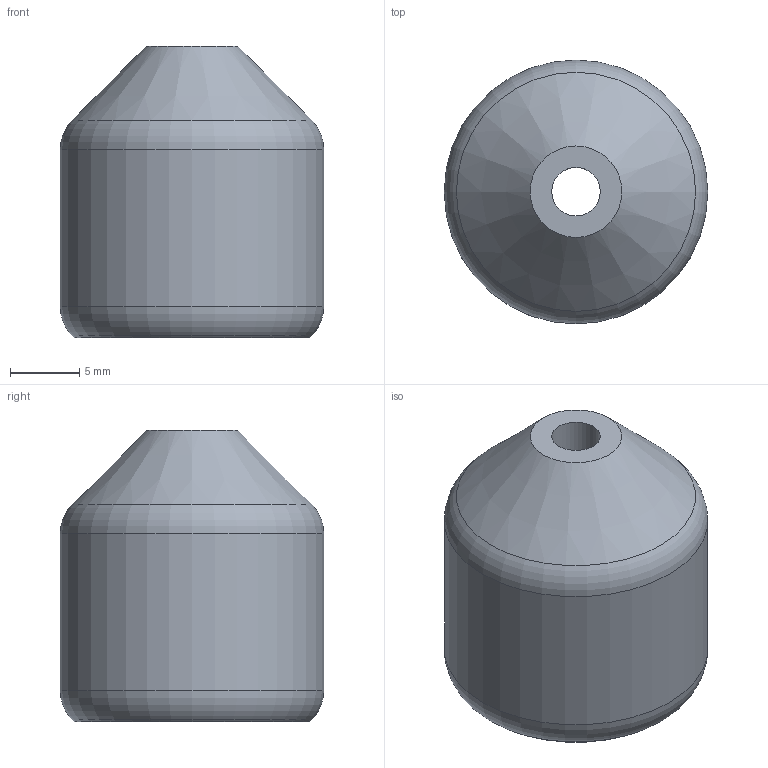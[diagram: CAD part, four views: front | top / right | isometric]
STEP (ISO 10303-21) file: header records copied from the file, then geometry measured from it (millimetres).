
FILE_DESCRIPTION(/* description */ ('STEP AP242','CAx-IF Rec.Pracs.---Representation and Presentation of Product Manufacturing Information (PMI)---4.0---2014-10-13','CAx-IF Rec.Pracs.---3D Tessellated Geometry---0.4---2014-09-14','2;1'),/* implementation_level */ '2;1');
FILE_NAME(/* name */ '64640bb9e0d72f3e1734a7b2',/* time_stamp */ '2023-05-16T23:03:21Z',/* author */ (''),/* organization */ (''),/* preprocessor_version */ 'ST-DEVELOPER v19.4',/* originating_system */ ' ',/* authorisation */ ' ');
FILE_SCHEMA (('AP242_MANAGED_MODEL_BASED_3D_ENGINEERING_MIM_LF { 1 0 10303 442 1 1 4 }'));
Length unit declared in the file: metre
Products named in the file (1): Handle
Bounding box: 19 x 19 x 21 mm (x, y, z)
Volume: 4441 mm3; surface area: 1839.5 mm2
Topology: 1 solids, 1 shells, 10 faces, 21 edges, 13 vertices
Faces by surface type: cylinder 3, cone 3, plane 2, torus 2
Full cylindrical faces by diameter (mm): 3.5 x1, 6.7 x1, 19 x1
Entity records: 230 total; most frequent: DIRECTION 42, CARTESIAN_POINT 31, AXIS2_PLACEMENT_3D 21, ORIENTED_EDGE 20, EDGE_LOOP 20, FACE_BOUND 20, EDGE_CURVE 10, VERTEX_POINT 10
